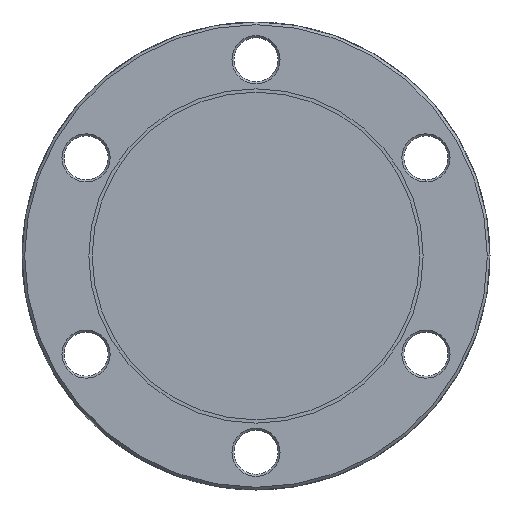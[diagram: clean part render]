
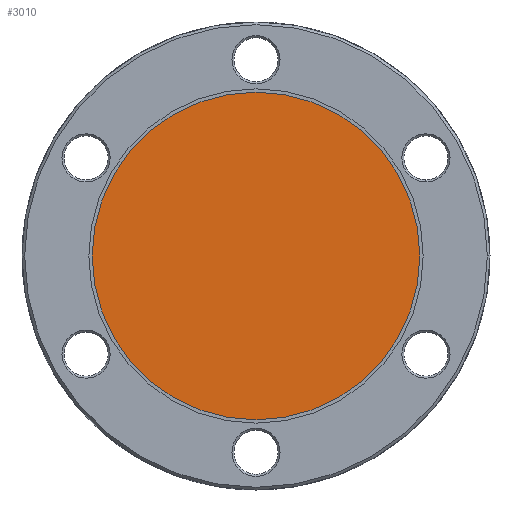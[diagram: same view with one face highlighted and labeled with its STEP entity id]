
A CAD part, left-side view. The second image highlights one B-rep face of the part: STEP entity #3010.
In plain terms, the highlighted planar face has unit normal (-1, 0, 0).
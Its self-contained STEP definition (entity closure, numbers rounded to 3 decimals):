
#2038=CARTESIAN_POINT('',(2.,0.,24.5));
#2039=VERTEX_POINT('',#2038);
#2064=CARTESIAN_POINT('',(2.,0.,-24.5));
#2065=VERTEX_POINT('',#2064);
#2072=CARTESIAN_POINT('',(2.,0.,0.));
#2073=DIRECTION('',(-1.0,0.0,0.0));
#2074=DIRECTION('',(0.0,0.0,1.0));
#2075=AXIS2_PLACEMENT_3D('',#2072,#2073,#2074);
#2076=CIRCLE('',#2075,24.5);
#2077=EDGE_CURVE('',#2039,#2065,#2076,.T.);
#2988=CARTESIAN_POINT('',(2.,0.,0.));
#2989=DIRECTION('',(-1.0,0.0,0.0));
#2990=DIRECTION('',(0.0,0.0,1.0));
#2991=AXIS2_PLACEMENT_3D('',#2988,#2989,#2990);
#2992=CIRCLE('',#2991,24.5);
#2993=EDGE_CURVE('',#2065,#2039,#2992,.T.);
#3001=CARTESIAN_POINT('',(2.,0.,24.35));
#3002=DIRECTION('',(-1.0,0.0,0.0));
#3003=DIRECTION('',(0.0,-1.0,0.0));
#3004=AXIS2_PLACEMENT_3D('',#3001,#3002,#3003);
#3005=PLANE('',#3004);
#3006=ORIENTED_EDGE('',*,*,#2077,.T.);
#3007=ORIENTED_EDGE('',*,*,#2993,.T.);
#3008=EDGE_LOOP('',(#3006,#3007));
#3009=FACE_OUTER_BOUND('',#3008,.T.);
#3010=ADVANCED_FACE('',(#3009),#3005,.T.);
